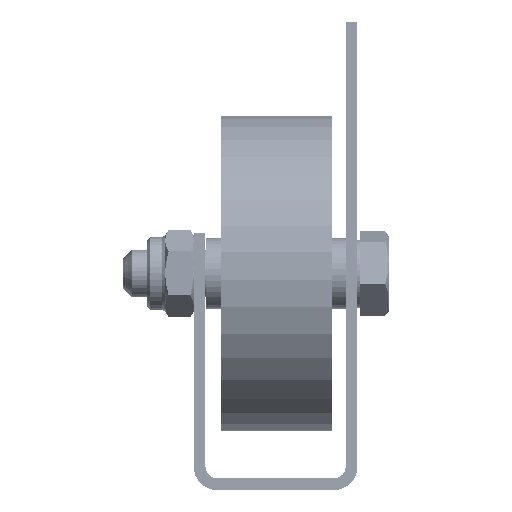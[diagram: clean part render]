
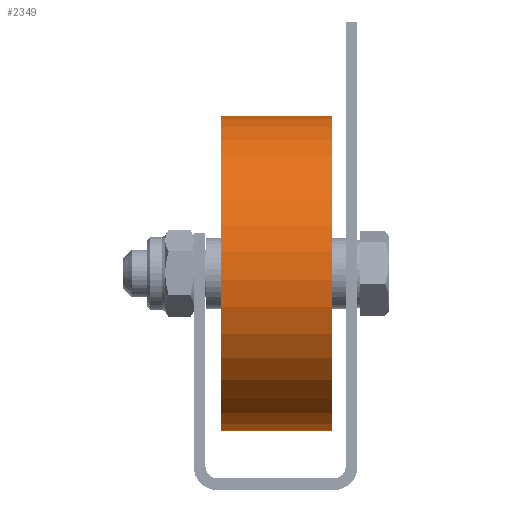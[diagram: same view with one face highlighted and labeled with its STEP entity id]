
A CAD part, front view. The second image highlights one B-rep face of the part: STEP entity #2349.
In plain terms, the highlighted cylindrical face has radius 27 mm (diameter 54 mm), a full revolution.
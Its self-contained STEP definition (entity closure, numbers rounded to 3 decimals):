
#2349 = ADVANCED_FACE( '', ( #4644, #4645 ), #4646, .T. );
#4644 = FACE_OUTER_BOUND( '', #7555, .T. );
#4645 = FACE_OUTER_BOUND( '', #7556, .T. );
#4646 = CYLINDRICAL_SURFACE( '', #7557, 27. );
#7555 = EDGE_LOOP( '', ( #11188 ) );
#7556 = EDGE_LOOP( '', ( #11189 ) );
#7557 = AXIS2_PLACEMENT_3D( '', #11190, #11191, #11192 );
#11188 = ORIENTED_EDGE( '', *, *, #13967, .T. );
#11189 = ORIENTED_EDGE( '', *, *, #14154, .F. );
#11190 = CARTESIAN_POINT( '', ( 0., -9.5, 0. ) );
#11191 = DIRECTION( '', ( 0., -1., 0. ) );
#11192 = DIRECTION( '', ( 0., 0., 1. ) );
#13967 = EDGE_CURVE( '', #16029, #16029, #16030, .T. );
#14154 = EDGE_CURVE( '', #16338, #16338, #16339, .T. );
#16029 = VERTEX_POINT( '', #18777 );
#16030 = CIRCLE( '', #18778, 27. );
#16338 = VERTEX_POINT( '', #19133 );
#16339 = CIRCLE( '', #19134, 27. );
#18777 = CARTESIAN_POINT( '', ( 27., -9.5, 0. ) );
#18778 = AXIS2_PLACEMENT_3D( '', #21711, #21712, #21713 );
#19133 = CARTESIAN_POINT( '', ( 27., 9.5, 0. ) );
#19134 = AXIS2_PLACEMENT_3D( '', #22072, #22073, #22074 );
#21711 = CARTESIAN_POINT( '', ( 0., -9.5, 0. ) );
#21712 = DIRECTION( '', ( 0., 1., 0. ) );
#21713 = DIRECTION( '', ( 1., 0., 0. ) );
#22072 = CARTESIAN_POINT( '', ( 0., 9.5, 0. ) );
#22073 = DIRECTION( '', ( 0., 1., 0. ) );
#22074 = DIRECTION( '', ( 1., 0., 0. ) );
